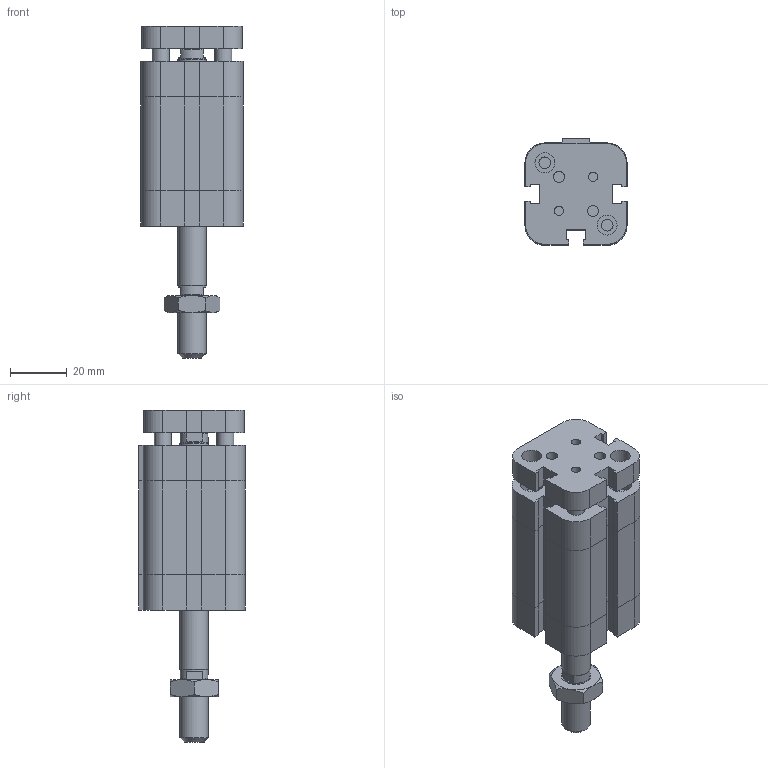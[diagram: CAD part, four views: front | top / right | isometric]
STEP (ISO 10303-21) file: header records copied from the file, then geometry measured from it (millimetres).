
FILE_DESCRIPTION((''),'2;1');
FILE_NAME('I:\Area Tecnica\Disegni\VARIE-3D\Componenti\EUROPE\15##_###_####_09_#\1581_20_0020_09_1.iam.stp','2009-04-20T15:43:06',(''),(''),'Autodesk Inventor 2009','Autodesk Inventor 2009','');
FILE_SCHEMA(('AUTOMOTIVE_DESIGN { 1 0 10303 214 1 1 1 1 }'));
Length unit declared in the file: millimetre
Products named in the file (4): 1581_20_0020_09_1; 1581_20_0020_08_1_C; 1561_20_0020_09_1_SA; DBFM10
Assembly tree (3 placements, depth 2):
  1581_20_0020_09_1
    1581_20_0020_08_1_C
    1561_20_0020_09_1_SA
    DBFM10
Bounding box: 36 x 37.5 x 117 mm (x, y, z)
Volume: 79536.4 mm3; surface area: 26725.9 mm2
Topology: 3 solids, 3 shells, 236 faces, 550 edges, 339 vertices
Faces by surface type: plane 147, bspline 45, cylinder 23, cone 21
Full cylindrical faces by diameter (mm): 6 x2, 8.8 x1, 9.8 x2, 10 x2
Entity records: 6859 total; most frequent: CARTESIAN_POINT 1610, ORIENTED_EDGE 992, DIRECTION 974, EDGE_CURVE 496, VECTOR 350, LINE 350, VERTEX_POINT 322, AXIS2_PLACEMENT_3D 312
